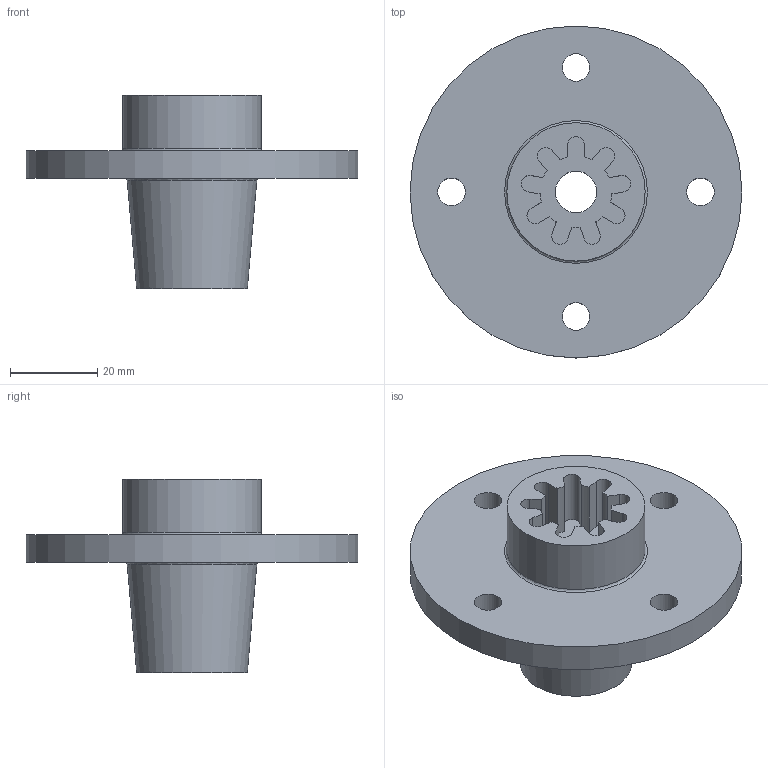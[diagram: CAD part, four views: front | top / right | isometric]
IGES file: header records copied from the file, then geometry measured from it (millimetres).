
Global section: file name: No Iges File Name specified; native system: AutoDesk Inventor R5.0; preprocessor: AutoDesk Inventor Iges Exporter R5.0; author: No Author specified; organization: No Organization specified; date: 20040116.185243; units: inch
Bounding box: 76.2 x 76.2 x 44.45 mm (x, y, z)
Surface area: 17209.8 mm2 (no closed solid volume)
Topology: 0 solids, 0 shells, 56 faces, 291 edges, 281 vertices
Faces by surface type: plane 27, revolution 22, bspline 7
